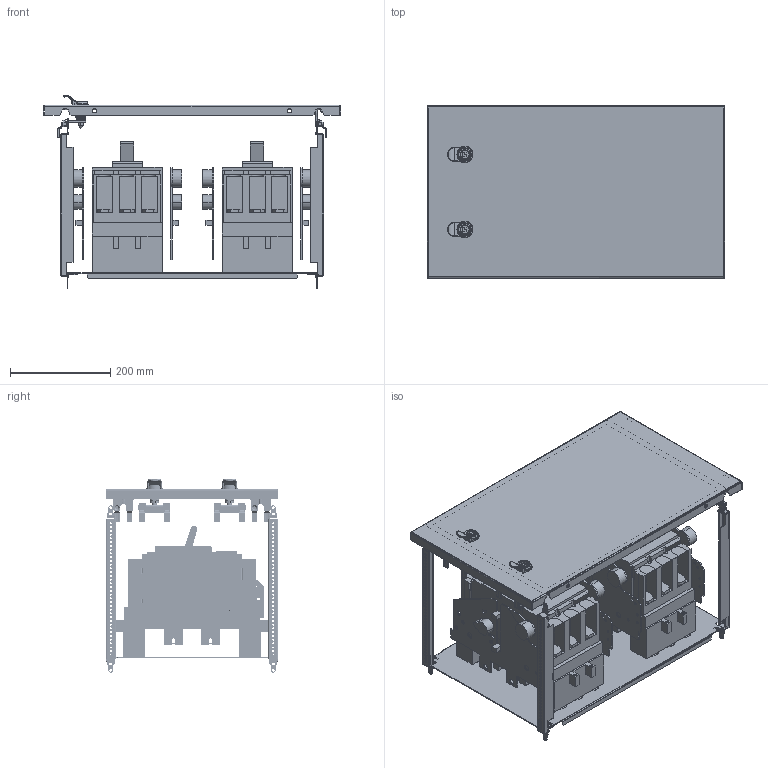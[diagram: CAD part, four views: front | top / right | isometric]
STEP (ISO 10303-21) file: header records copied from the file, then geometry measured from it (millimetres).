
FILE_DESCRIPTION(('CAx-IF Rec.Pracs.---Model Styling and Organization---1.2---2011-12-15','CAx-IF Rec.Pracs.---Geometric and Assembly Validation Properties---4.1---2014-06-16','CAx-IF Rec.Pracs.---PMI Polyline Presentation---2.0---2013-05-24'),'2;1');
FILE_NAME('R5PKEB7V61516.stp','2021-07-29T02:23:41+03:00',(''),(''),'STEP Interface 4.4 by CT CoreTechnologie','3D_Evolution4.4 by CT CoreTechnologie','');
FILE_SCHEMA(('AUTOMOTIVE_DESIGN { 1 0 10303 214 1 1 1 1 }'));
Length unit declared in the file: millimetre
Products named in the file (1): R5PKEB7V61516
Bounding box: 594 x 345 x 386.9 mm (x, y, z)
Surface area: 2335334.1 mm2 (no closed solid volume)
Topology: 0 solids, 119 shells, 4501 faces, 12365 edges, 8099 vertices
Faces by surface type: plane 2026, cylinder 1586, bspline 889
Entity records: 159873 total; most frequent: CARTESIAN_POINT 44667, ORIENTED_EDGE 24562, DIRECTION 23503, EDGE_CURVE 12299, VERTEX_POINT 8103, AXIS2_PLACEMENT_3D 8027, VECTOR 7449, LINE 7449
